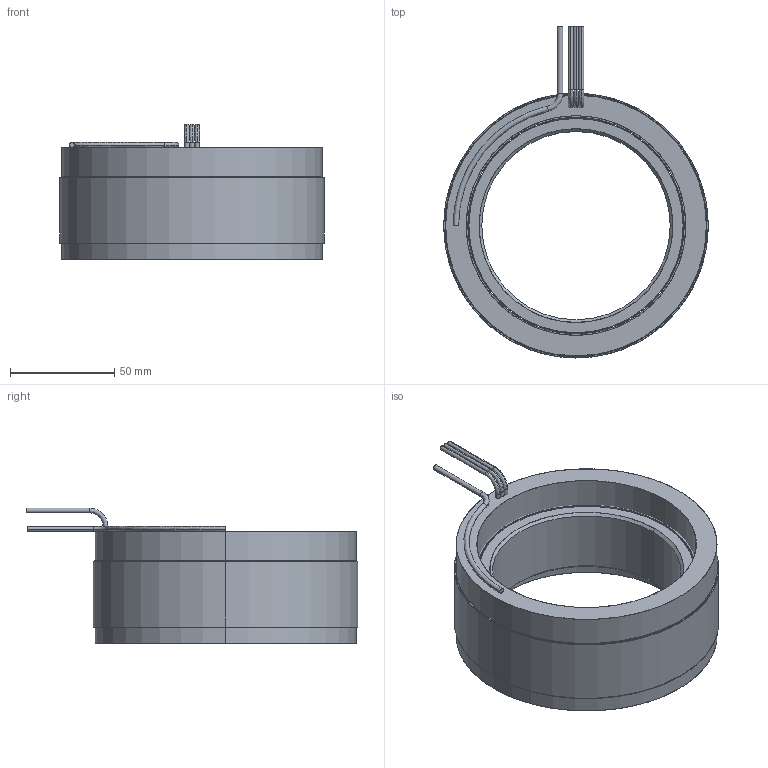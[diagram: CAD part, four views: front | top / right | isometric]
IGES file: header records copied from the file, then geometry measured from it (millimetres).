
Start section: SolidWorks IGES file using analytic representation for surfaces
Global section: file name: \\fs01.aveox.local\user documents\eng\My Documents\6100396-XX STATOR AND ROTOR SET, UT-5000-32P3, SENSORLESS\6100396-04.IGS; native system: SolidWorks 2016; preprocessor: SolidWorks 2016; author: eng; date: 201215.100958; units: inch
Bounding box: 127 x 159.26 x 65.15 mm (x, y, z)
Surface area: 135065.8 mm2 (no closed solid volume)
Topology: 0 solids, 0 shells, 75 faces, 2236 edges, 2236 vertices
Faces by surface type: revolution 46, bspline 29
